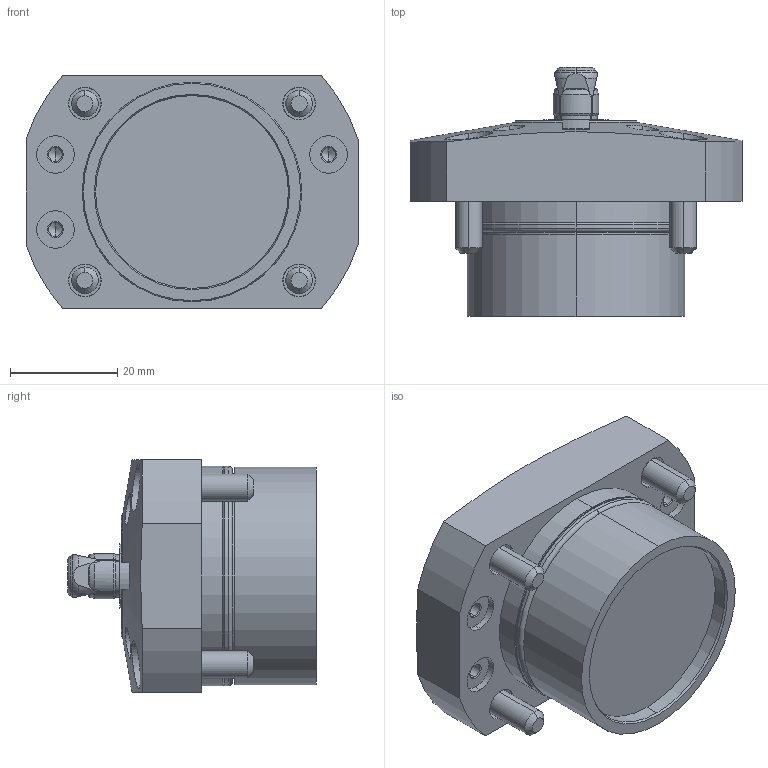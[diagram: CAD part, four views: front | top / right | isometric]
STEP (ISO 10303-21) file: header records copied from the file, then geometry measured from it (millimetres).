
FILE_DESCRIPTION (( 'STEP AP203' ), '1' );
FILE_NAME ('SFH2090.STEP', '2010-11-03T23:04:19', ( ' ' ), ( ' ' ), 'SwSTEP 2.0', 'SolidWorks 2010', '' );
FILE_SCHEMA (( 'CONFIG_CONTROL_DESIGN' ));
Length unit declared in the file: millimetre
Products named in the file (7): 6妏寠晅无倌_M3_10; 冇9_郫霓; SFH2090; SFH2090_套菁轤礁诎蔬晅; SFH2_钾堇轤O剌皋晅; φ9_ｽﾘｰﾌﾞ; 6妏寠晅无倌_M5_16
Assembly tree (12 placements, depth 2):
  SFH2090
    φ9_ｽﾘｰﾌﾞ
    6妏寠晅无倌_M5_16  x4
    6妏寠晅无倌_M3_10  x4
    冇9_郫霓
    SFH2090_套菁轤礁诎蔬晅
    SFH2_钾堇轤O剌皋晅
Bounding box: 62 x 46.5 x 43.5 mm (x, y, z)
Volume: 58242.5 mm3; surface area: 20937.3 mm2
Topology: 16 solids, 16 shells, 486 faces, 995 edges, 552 vertices
Faces by surface type: plane 191, cone 156, cylinder 122, torus 17
Entity records: 9933 total; most frequent: CARTESIAN_POINT 2374, DIRECTION 1482, ORIENTED_EDGE 1318, EDGE_CURVE 659, AXIS2_PLACEMENT_3D 614, VERTEX_POINT 402, EDGE_LOOP 341, ADVANCED_FACE 300
